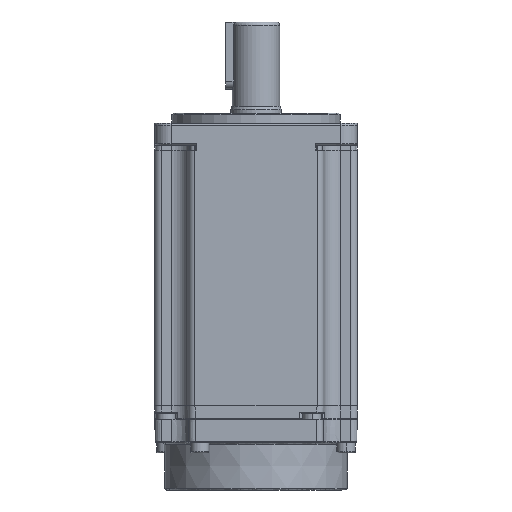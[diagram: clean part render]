
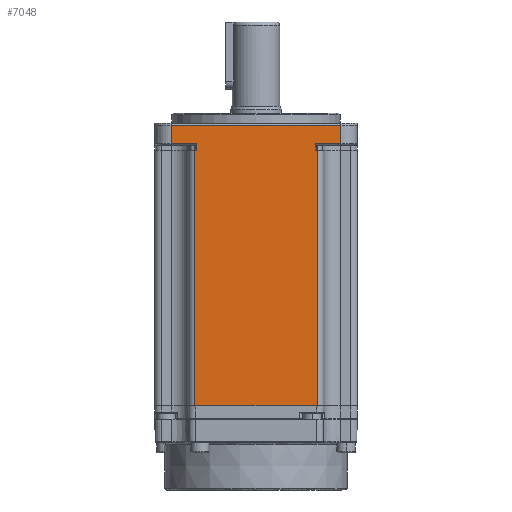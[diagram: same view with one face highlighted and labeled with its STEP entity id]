
A CAD part, front view. The second image highlights one B-rep face of the part: STEP entity #7048.
In plain terms, the highlighted planar face has unit normal (0, -1, 0).
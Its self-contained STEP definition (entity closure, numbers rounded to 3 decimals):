
#74 = FACE_OUTER_BOUND ( 'NONE', #36841, .T. ) ;
#187 = DIRECTION ( 'NONE',  ( -1., 0., 0. ) ) ;
#2347 = CARTESIAN_POINT ( 'NONE',  ( -17.5, -30.1, 84.6 ) ) ;
#3583 = DIRECTION ( 'NONE',  ( -1., 0., 0. ) ) ;
#6679 = CARTESIAN_POINT ( 'NONE',  ( -30.1, -30.1, 76.2 ) ) ;
#7029 = VECTOR ( 'NONE', #21680, 1000. ) ;
#7048 = ADVANCED_FACE ( 'NONE', ( #74 ), #65068, .F. ) ;
#8417 = VECTOR ( 'NONE', #48682, 1000. ) ;
#8540 = LINE ( 'NONE', #65027, #21734 ) ;
#10352 = VECTOR ( 'NONE', #68548, 1000. ) ;
#10755 = EDGE_CURVE ( 'NONE', #66796, #68881, #23352, .T. ) ;
#11662 = LINE ( 'NONE', #50075, #69507 ) ;
#12320 = DIRECTION ( 'NONE',  ( -1., 0., 0. ) ) ;
#12993 = LINE ( 'NONE', #22480, #70839 ) ;
#12996 = VERTEX_POINT ( 'NONE', #53550 ) ;
#13769 = AXIS2_PLACEMENT_3D ( 'NONE', #48108, #37076, #3583 ) ;
#15104 = VERTEX_POINT ( 'NONE', #58616 ) ;
#15366 = CARTESIAN_POINT ( 'NONE',  ( 17.5, -30.1, 76.2 ) ) ;
#16306 = CARTESIAN_POINT ( 'NONE',  ( -18.1, -30.1, 84.6 ) ) ;
#17205 = ORIENTED_EDGE ( 'NONE', *, *, #70090, .T. ) ;
#19223 = EDGE_CURVE ( 'NONE', #15104, #31758, #46375, .T. ) ;
#19385 = CARTESIAN_POINT ( 'NONE',  ( -30.1, -30.1, 0.4 ) ) ;
#21215 = VERTEX_POINT ( 'NONE', #23086 ) ;
#21387 = EDGE_CURVE ( 'NONE', #15104, #39251, #35677, .T. ) ;
#21680 = DIRECTION ( 'NONE',  ( 0., 0., -1. ) ) ;
#21734 = VECTOR ( 'NONE', #53733, 1000. ) ;
#22480 = CARTESIAN_POINT ( 'NONE',  ( -30.1, -30.1, 83.6 ) ) ;
#23086 = CARTESIAN_POINT ( 'NONE',  ( -17.5, -30.1, 76.2 ) ) ;
#23352 = LINE ( 'NONE', #65408, #8417 ) ;
#23603 = VERTEX_POINT ( 'NONE', #41313 ) ;
#24173 = EDGE_CURVE ( 'NONE', #23603, #66796, #28442, .T. ) ;
#24739 = ORIENTED_EDGE ( 'NONE', *, *, #19223, .T. ) ;
#25122 = EDGE_CURVE ( 'NONE', #63927, #36333, #11662, .T. ) ;
#25144 = ORIENTED_EDGE ( 'NONE', *, *, #41430, .T. ) ;
#27848 = DIRECTION ( 'NONE',  ( 0., 0., 1. ) ) ;
#28284 = CARTESIAN_POINT ( 'NONE',  ( -17.5, -30.1, 78.2 ) ) ;
#28442 = LINE ( 'NONE', #62014, #71422 ) ;
#29009 = CARTESIAN_POINT ( 'NONE',  ( 18.1, -30.1, 84.6 ) ) ;
#30003 = EDGE_CURVE ( 'NONE', #12996, #63927, #55023, .T. ) ;
#31758 = VERTEX_POINT ( 'NONE', #36709 ) ;
#34014 = EDGE_CURVE ( 'NONE', #21215, #38256, #58921, .T. ) ;
#35677 = LINE ( 'NONE', #19385, #47057 ) ;
#35848 = DIRECTION ( 'NONE',  ( 0., 0., -1. ) ) ;
#35866 = EDGE_CURVE ( 'NONE', #65828, #12996, #70221, .T. ) ;
#36213 = CARTESIAN_POINT ( 'NONE',  ( 25.1, -30.1, 83.6 ) ) ;
#36333 = VERTEX_POINT ( 'NONE', #36213 ) ;
#36709 = CARTESIAN_POINT ( 'NONE',  ( 18.1, -30.1, 76.2 ) ) ;
#36841 = EDGE_LOOP ( 'NONE', ( #71362, #24739, #38483, #50543, #46206, #58930, #25144, #42219, #45403, #17205, #70549, #46747 ) ) ;
#37076 = DIRECTION ( 'NONE',  ( 0., 1., 0. ) ) ;
#38256 = VERTEX_POINT ( 'NONE', #63176 ) ;
#38483 = ORIENTED_EDGE ( 'NONE', *, *, #41751, .T. ) ;
#39251 = VERTEX_POINT ( 'NONE', #56358 ) ;
#41313 = CARTESIAN_POINT ( 'NONE',  ( -25.1, -30.1, 83.6 ) ) ;
#41430 = EDGE_CURVE ( 'NONE', #36333, #23603, #12993, .T. ) ;
#41751 = EDGE_CURVE ( 'NONE', #31758, #65828, #8540, .T. ) ;
#41848 = VECTOR ( 'NONE', #35848, 1000. ) ;
#42219 = ORIENTED_EDGE ( 'NONE', *, *, #24173, .T. ) ;
#43074 = CARTESIAN_POINT ( 'NONE',  ( 17.5, -30.1, 84.6 ) ) ;
#45403 = ORIENTED_EDGE ( 'NONE', *, *, #10755, .T. ) ;
#46206 = ORIENTED_EDGE ( 'NONE', *, *, #30003, .T. ) ;
#46375 = LINE ( 'NONE', #29009, #63117 ) ;
#46657 = CARTESIAN_POINT ( 'NONE',  ( 25.1, -30.1, 78.2 ) ) ;
#46747 = ORIENTED_EDGE ( 'NONE', *, *, #47575, .T. ) ;
#47057 = VECTOR ( 'NONE', #69829, 1000. ) ;
#47575 = EDGE_CURVE ( 'NONE', #38256, #39251, #66673, .T. ) ;
#48108 = CARTESIAN_POINT ( 'NONE',  ( -30.1, -30.1, 84.6 ) ) ;
#48682 = DIRECTION ( 'NONE',  ( 1., 0., 0. ) ) ;
#50075 = CARTESIAN_POINT ( 'NONE',  ( 25.1, -30.1, 84.6 ) ) ;
#50543 = ORIENTED_EDGE ( 'NONE', *, *, #35866, .T. ) ;
#51487 = DIRECTION ( 'NONE',  ( 0., 0., 1. ) ) ;
#53411 = CARTESIAN_POINT ( 'NONE',  ( -25.1, -30.1, 78.2 ) ) ;
#53550 = CARTESIAN_POINT ( 'NONE',  ( 17.5, -30.1, 78.2 ) ) ;
#53733 = DIRECTION ( 'NONE',  ( -1., 0., 0. ) ) ;
#54399 = DIRECTION ( 'NONE',  ( 0., 0., 1. ) ) ;
#55023 = LINE ( 'NONE', #63390, #10352 ) ;
#56358 = CARTESIAN_POINT ( 'NONE',  ( -18.1, -30.1, 0.4 ) ) ;
#57021 = VECTOR ( 'NONE', #54399, 1000. ) ;
#58616 = CARTESIAN_POINT ( 'NONE',  ( 18.1, -30.1, 0.4 ) ) ;
#58921 = LINE ( 'NONE', #6679, #72102 ) ;
#58930 = ORIENTED_EDGE ( 'NONE', *, *, #25122, .T. ) ;
#62014 = CARTESIAN_POINT ( 'NONE',  ( -25.1, -30.1, 84.6 ) ) ;
#63117 = VECTOR ( 'NONE', #51487, 1000. ) ;
#63176 = CARTESIAN_POINT ( 'NONE',  ( -18.1, -30.1, 76.2 ) ) ;
#63390 = CARTESIAN_POINT ( 'NONE',  ( 25.1, -30.1, 78.2 ) ) ;
#63927 = VERTEX_POINT ( 'NONE', #46657 ) ;
#65027 = CARTESIAN_POINT ( 'NONE',  ( -30.1, -30.1, 76.2 ) ) ;
#65068 = PLANE ( 'NONE',  #13769 ) ;
#65408 = CARTESIAN_POINT ( 'NONE',  ( -17.5, -30.1, 78.2 ) ) ;
#65828 = VERTEX_POINT ( 'NONE', #15366 ) ;
#66673 = LINE ( 'NONE', #16306, #7029 ) ;
#66796 = VERTEX_POINT ( 'NONE', #53411 ) ;
#67892 = DIRECTION ( 'NONE',  ( 0., 0., -1. ) ) ;
#68548 = DIRECTION ( 'NONE',  ( 1., 0., 0. ) ) ;
#68881 = VERTEX_POINT ( 'NONE', #28284 ) ;
#69507 = VECTOR ( 'NONE', #27848, 1000. ) ;
#69829 = DIRECTION ( 'NONE',  ( -1., 0., 0. ) ) ;
#70090 = EDGE_CURVE ( 'NONE', #68881, #21215, #71760, .T. ) ;
#70221 = LINE ( 'NONE', #43074, #57021 ) ;
#70549 = ORIENTED_EDGE ( 'NONE', *, *, #34014, .T. ) ;
#70839 = VECTOR ( 'NONE', #187, 1000. ) ;
#71362 = ORIENTED_EDGE ( 'NONE', *, *, #21387, .F. ) ;
#71422 = VECTOR ( 'NONE', #67892, 1000. ) ;
#71760 = LINE ( 'NONE', #2347, #41848 ) ;
#72102 = VECTOR ( 'NONE', #12320, 1000. ) ;
